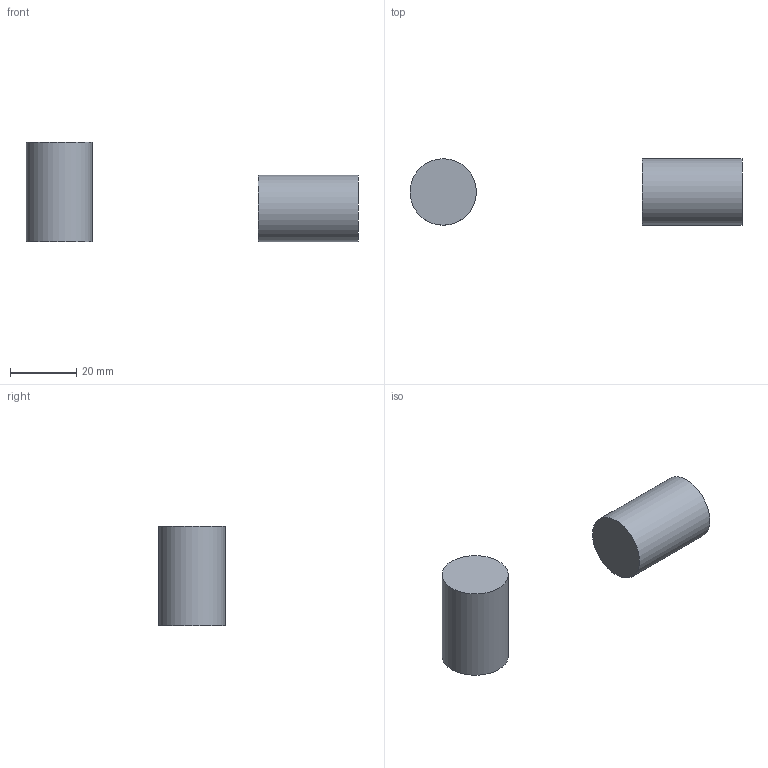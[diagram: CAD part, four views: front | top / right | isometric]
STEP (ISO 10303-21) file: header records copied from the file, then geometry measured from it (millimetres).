
FILE_DESCRIPTION(('step-conformance generated part'),'2;1');
FILE_NAME('cylinder_twice.step','2026-10-12T00:00:00',(''),(''),'step-conformance generate','step-conformance generate','');
FILE_SCHEMA(('AUTOMOTIVE_DESIGN { 1 0 10303 214 1 1 1 1 }'));
Length unit declared in the file: millimetre
Products named in the file (2): cylinder_twice assembly; cylinder_twice
Assembly tree (2 placements, depth 2):
  cylinder_twice assembly
    cylinder_twice  x2
Bounding box: 100 x 20 x 30 mm (x, y, z)
Volume: 18849.6 mm3; surface area: 5026.5 mm2
Topology: 2 solids, 2 shells, 6 faces, 6 edges, 4 vertices
Faces by surface type: plane 4, cylinder 2
Full cylindrical faces by diameter (mm): 20 x2
Entity records: 93 total; most frequent: DIRECTION 18, CARTESIAN_POINT 11, AXIS2_PLACEMENT_3D 9, PRODUCT_DEFINITION_SHAPE 4, ORIENTED_EDGE 4, EDGE_LOOP 4, FACE_OUTER_BOUND 3, ADVANCED_FACE 3
